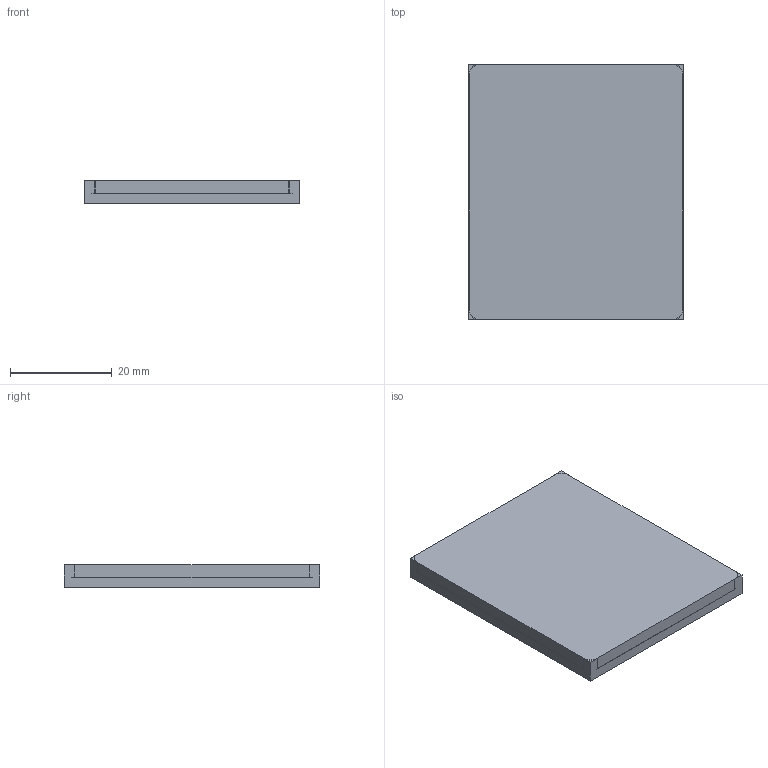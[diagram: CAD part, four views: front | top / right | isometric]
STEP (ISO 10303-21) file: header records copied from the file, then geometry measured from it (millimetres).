
FILE_DESCRIPTION(('Open CASCADE Model'),'2;1');
FILE_NAME('Open CASCADE Shape Model','2026-05-31T19:43:34',('Author'),( 'Open CASCADE'),'Open CASCADE STEP processor 7.6','Open CASCADE 7.6' ,'Unknown');
FILE_SCHEMA(('AP242_MANAGED_MODEL_BASED_3D_ENGINEERING_MIM_LF. {1 0 10303 442 1 1 4 }'));
Length unit declared in the file: millimetre
Products named in the file (2): Socket; Part
Bounding box: 42.1 x 50.1 x 4.5 mm (x, y, z)
Volume: 9453.6 mm3; surface area: 7156 mm2
Topology: 2 solids, 2 shells, 41 faces, 108 edges, 72 vertices
Faces by surface type: plane 25, cylinder 16
Entity records: 2728 total; most frequent: CARTESIAN_POINT 518, DIRECTION 420, LINE 252, VECTOR 252, ORIENTED_EDGE 216, PCURVE 216, DEFINITIONAL_REPRESENTATION 216, EDGE_CURVE 108
